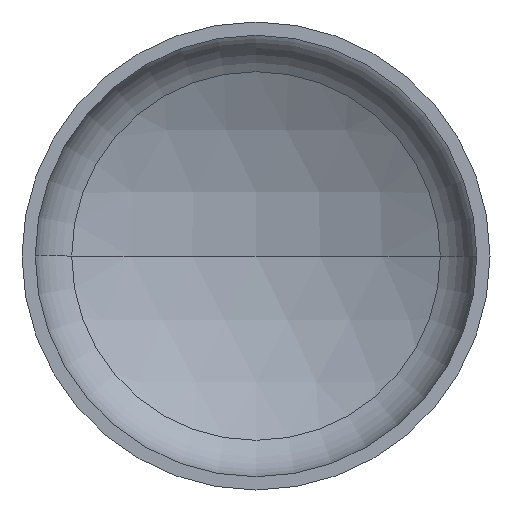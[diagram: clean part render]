
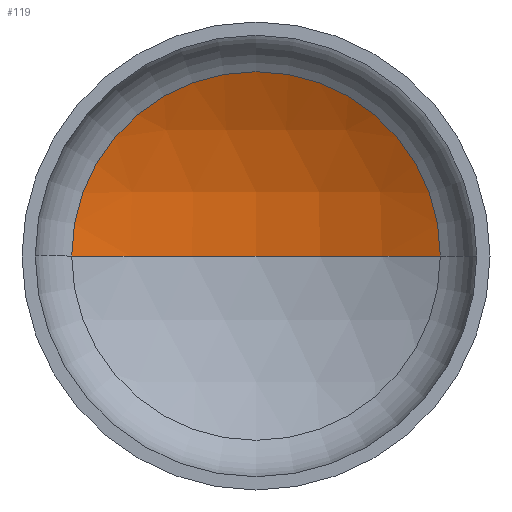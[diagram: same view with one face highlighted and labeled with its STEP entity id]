
A CAD part, front view. The second image highlights one B-rep face of the part: STEP entity #119.
In plain terms, the highlighted spherical face has radius 480 mm.
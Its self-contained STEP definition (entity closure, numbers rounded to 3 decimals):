
#1 = AXIS2_PLACEMENT_3D ( 'NONE', #332, #338, #175 ) ;
#2 = AXIS2_PLACEMENT_3D ( 'NONE', #268, #269, #124 ) ;
#11 = AXIS2_PLACEMENT_3D ( 'NONE', #319, #228, #113 ) ;
#12 = EDGE_LOOP ( 'NONE', ( #150, #60, #49 ) ) ;
#19 = CARTESIAN_POINT ( 'NONE',  ( 0., 197.268, 0. ) ) ;
#49 = ORIENTED_EDGE ( 'NONE', *, *, #366, .T. ) ;
#51 = VERTEX_POINT ( 'NONE', #234 ) ;
#60 = ORIENTED_EDGE ( 'NONE', *, *, #360, .T. ) ;
#74 = AXIS2_PLACEMENT_3D ( 'NONE', #294, #336, #279 ) ;
#113 = DIRECTION ( 'NONE',  ( 1., 0., 0. ) ) ;
#119 = ADVANCED_FACE ( 'NONE', ( #253 ), #184, .F. ) ;
#124 = DIRECTION ( 'NONE',  ( 1., 0., 0. ) ) ;
#129 = CIRCLE ( 'NONE', #1, 480. ) ;
#141 = VERTEX_POINT ( 'NONE', #290 ) ;
#150 = ORIENTED_EDGE ( 'NONE', *, *, #340, .F. ) ;
#175 = DIRECTION ( 'NONE',  ( -1., 0., 0. ) ) ;
#184 = SPHERICAL_SURFACE ( 'NONE', #74, 480. ) ;
#228 = DIRECTION ( 'NONE',  ( 0., 0., 1. ) ) ;
#234 = CARTESIAN_POINT ( 'NONE',  ( -236.289, 135.081, 0. ) ) ;
#253 = FACE_OUTER_BOUND ( 'NONE', #12, .T. ) ;
#265 = CIRCLE ( 'NONE', #11, 480. ) ;
#268 = CARTESIAN_POINT ( 'NONE',  ( 0., 135.081, 0. ) ) ;
#269 = DIRECTION ( 'NONE',  ( 0., -1., 0. ) ) ;
#271 = VERTEX_POINT ( 'NONE', #19 ) ;
#279 = DIRECTION ( 'NONE',  ( -1., 0., 0. ) ) ;
#290 = CARTESIAN_POINT ( 'NONE',  ( 236.289, 135.081, 0. ) ) ;
#294 = CARTESIAN_POINT ( 'NONE',  ( 0., -282.732, 0. ) ) ;
#319 = CARTESIAN_POINT ( 'NONE',  ( 0., -282.732, 0. ) ) ;
#332 = CARTESIAN_POINT ( 'NONE',  ( 0., -282.732, 0. ) ) ;
#336 = DIRECTION ( 'NONE',  ( 0., 0., -1. ) ) ;
#338 = DIRECTION ( 'NONE',  ( 0., 0., -1. ) ) ;
#339 = CIRCLE ( 'NONE', #2, 236.289 ) ;
#340 = EDGE_CURVE ( 'NONE', #271, #51, #265, .T. ) ;
#360 = EDGE_CURVE ( 'NONE', #271, #141, #129, .T. ) ;
#366 = EDGE_CURVE ( 'NONE', #141, #51, #339, .T. ) ;
